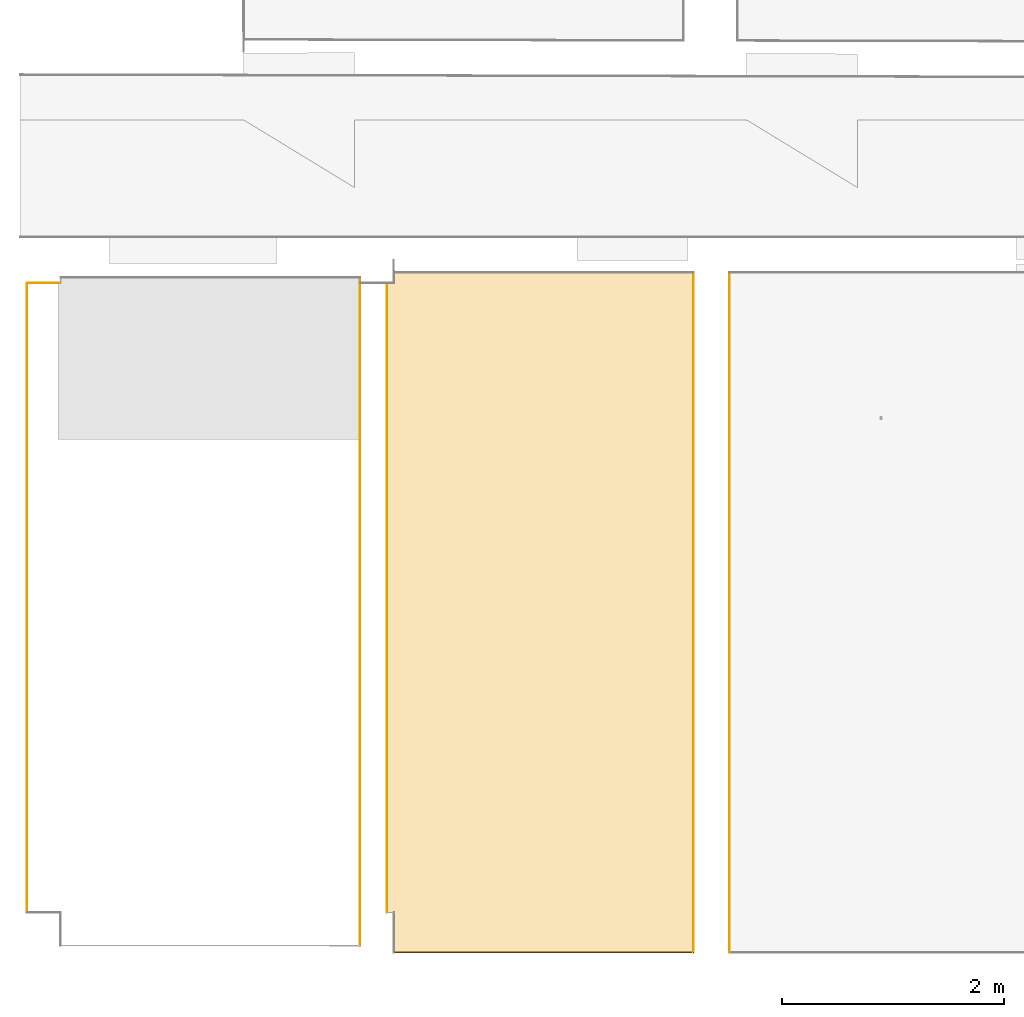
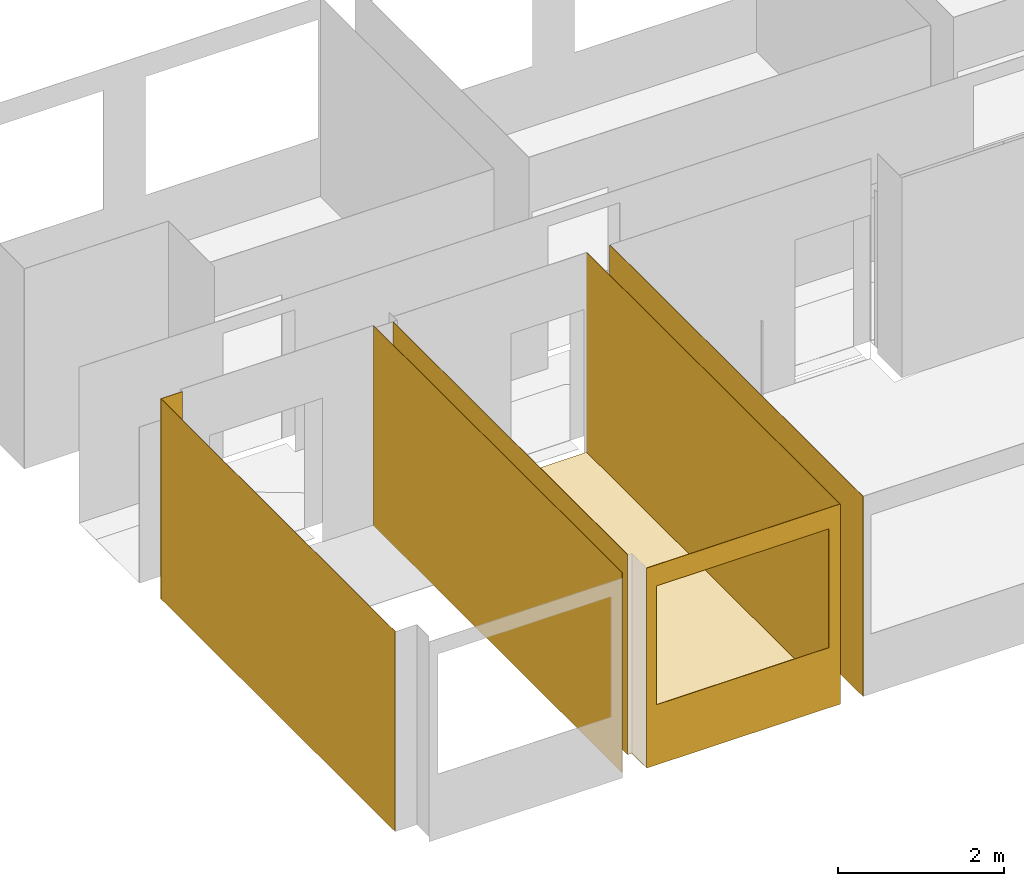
# One storey, part 2 of 16: 8 coverings, 1 opening.
"""IFC2X3 building model written with IfcOpenShell, lengths in millimetres."""

from ifc_helpers import new_model, entity, si_unit, converted_unit, derived_unit, money_unit, direction, frame, origin_with_axes, origin_2d_with_axis, place, context, subcontext, project, spatial, polyline, rectangle, outline, extrude, material, type_object, element, save


model = new_model("IFC2X3")

# Units and contexts
model_context = context("Model", 3, precision=0.01, world=origin_with_axes(), true_north=direction((0.0, 1.0)))
body_context = subcontext(model_context, "Body", "Model", "MODEL_VIEW")
ifc_project = project(units=[si_unit("LENGTHUNIT", "METRE", prefix="MILLI"), si_unit("AREAUNIT", "SQUARE_METRE"), si_unit("VOLUMEUNIT", "CUBIC_METRE"), converted_unit("PLANEANGLEUNIT", "DEGREE", entity("IfcPlaneAngleMeasure", 0.0174532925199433), si_unit("PLANEANGLEUNIT", "RADIAN"), dimensions=[0, 0, 0, 0, 0, 0, 0]), money_unit("EUR"), converted_unit("TIMEUNIT", "Year", entity("IfcTimeMeasure", 31556926.0), si_unit("TIMEUNIT", "SECOND"), dimensions=[0, 0, 1, 0, 0, 0, 0]), si_unit("MASSUNIT", "GRAM", prefix="KILO"), si_unit("THERMODYNAMICTEMPERATUREUNIT", "DEGREE_CELSIUS"), si_unit("LUMINOUSINTENSITYUNIT", "LUMEN"), si_unit("ENERGYUNIT", "JOULE", prefix="MEGA"), derived_unit("THERMALCONDUCTANCEUNIT", [(si_unit("POWERUNIT", "WATT"), 1), (si_unit("LENGTHUNIT", "METRE"), -1), (si_unit("THERMODYNAMICTEMPERATUREUNIT", "KELVIN"), -1)]), derived_unit("SPECIFICHEATCAPACITYUNIT", [(si_unit("ENERGYUNIT", "JOULE"), 1), (si_unit("MASSUNIT", "GRAM", prefix="KILO"), -1), (si_unit("THERMODYNAMICTEMPERATUREUNIT", "KELVIN"), -1)]), derived_unit("MASSDENSITYUNIT", [(si_unit("MASSUNIT", "GRAM", prefix="KILO"), 1), (si_unit("VOLUMEUNIT", "CUBIC_METRE"), -1)])], contexts=[model_context])

# Site, building, storey
site_placement = place(None, origin_with_axes())
site = spatial("IfcSite", under=ifc_project, at=site_placement, Name="Paldiski mnt 245/1, Tallinn, Harjumaa", CompositionType="COMPLEX")
building_placement = place(site_placement, origin_with_axes())
building = spatial("IfcBuilding", under=site, at=building_placement, Name="RKAS Hoone üldnimetus (kasutust iseloomustav) -> IFC Project Manager -> SOLIBRI", CompositionType="ELEMENT")
storey_placement = place(building_placement, frame((0.0, 0.0, 3300.0), z_axis=(0.0, 0.0, 1.0), x_axis=(1.0, 0.0, 0.0)))
storey = spatial("IfcBuildingStorey", under=building, at=storey_placement, Name="Teine korrus", CompositionType="ELEMENT", Elevation=3300.0)

# Covering
ifc_material_1 = material(Name="SA- PM-2 vinüül hex")
covering_type_1 = type_object("IfcCoveringType", Name="SA- PM-2 vinüül hex 3", PredefinedType="FLOORING")
covering_1_placement = place(storey_placement, frame((-41588.00000000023, -12510.0840870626, 0.0), z_axis=(0.0, 0.0, 1.0), x_axis=(1.0, 0.0, 0.0)))
element("IfcCovering", 1, at=covering_1_placement, inside=storey, type_object=covering_type_1, material=ifc_material_1, Name="PM-2", PredefinedType="FLOORING", context=body_context, shape_type="SweptSolid", body=[
    extrude(outline(polyline([(0.0, 0.0), (0.0, 360.0000000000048), (1.49213974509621e-10, 6030.08408706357), (1.4210854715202e-10, 6122.084087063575), (-2701.999995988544, 6122.084087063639), (-2701.999999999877, 6030.084087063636), (-2761.999999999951, 6030.084087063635), (-2762.000000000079, 360.0000000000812), (-2702.000000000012, 360.0000000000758), (-2702.00000000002, 0.0), (0.0, 0.0)])), origin_with_axes(), (0.0, 0.0, 1.0), 3.0),
])

# Covering, opening
ifc_material_2 = material(Name="SA- Värv SM5(valge)")
covering_type_2 = type_object("IfcCoveringType", Name="SA- Värv SM5(valge) 5", PredefinedType="CLADDING")
covering_2_placement = place(storey_placement, frame((-44290.00000000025, -12510.08408706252, 0.0), z_axis=(0.0, 0.0, 1.0), x_axis=(1.0, 0.0, 0.0)))
covering_2 = element("IfcCovering", 2, at=covering_2_placement, inside=storey, type_object=covering_type_2, material=ifc_material_2, Name="SM5", PredefinedType="CLADDING", context=body_context, shape_type="SweptSolid", body=[
    extrude(outline(polyline([(0.0, 0.0), (2702.00000000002, 0.0), (2702.00000000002, 5.000000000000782), (0.0, 5.000000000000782), (0.0, 0.0)])), origin_with_axes(), (0.0, 0.0, 1.0), 2950.0),
])
opening_placement = place(covering_2_placement, frame((44290.00000000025, 12510.08408706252, -3300.0), z_axis=(0.0, 0.0, 1.0), x_axis=(1.0, 0.0, 0.0)))
element("IfcOpeningElement", 3, at=opening_placement, cuts=covering_2, Name="AVA", ObjectType="OPENING", context=body_context, shape_type="SweptSolid", body=[
    extrude(rectangle(XDim=2408.880911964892, YDim=1752.999180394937, at=origin_2d_with_axis()), frame((-42952.32756183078, -12515.08408706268, 5063.500409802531), z_axis=(0.0, -1.0, 0.0), x_axis=(1.0, 0.0, 0.0)), (0.0, 0.0, -1.0), 15.00000000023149),
])

# Coverings
covering_3_placement = place(storey_placement, frame((-44590.0000000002, -6429.999999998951, 0.0), z_axis=(0.0, 0.0, 1.0), x_axis=(1.16000475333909e-06, -0.9999999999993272, 0.0)))
element("IfcCovering", 4, at=covering_3_placement, inside=storey, type_object=covering_type_2, material=ifc_material_2, Name="SM5", PredefinedType="CLADDING", context=body_context, shape_type="SweptSolid", body=[
    extrude(outline(polyline([(4.999994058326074, -4.999999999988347), (6013.469736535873, -4.999999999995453), (6018.473234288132, 0.0), (0.0, 0.0), (4.999994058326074, -4.999999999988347)])), origin_with_axes(), (0.0, 0.0, 1.0), 2950.0),
])
covering_4_placement = place(storey_placement, frame((-47590.00000000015, -6479.999999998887, 0.0), z_axis=(0.0, 0.0, 1.0), x_axis=(1.0, 0.0, 0.0)))
element("IfcCovering", 5, at=covering_4_placement, inside=storey, type_object=covering_type_2, material=ifc_material_2, Name="SM5", PredefinedType="CLADDING", context=body_context, shape_type="SweptSolid", body=[
    extrude(outline(polyline([(0.0, -4.999999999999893), (305.0000030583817, -4.999999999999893), (299.9999999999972, 0.0), (0.0, 0.0), (0.0, -4.999999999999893)])), origin_with_axes(), (0.0, 0.0, 1.0), 2950.0),
])
covering_5_placement = place(storey_placement, frame((-47590.00000000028, -12150.08408706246, 0.0), z_axis=(0.0, 0.0, 1.0), x_axis=(0.0, 1.0, 0.0)))
element("IfcCovering", 6, at=covering_5_placement, inside=storey, type_object=covering_type_2, material=ifc_material_2, Name="SM5", PredefinedType="CLADDING", context=body_context, shape_type="SweptSolid", body=[
    extrude(outline(polyline([(0.0, -5.000000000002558), (5670.084087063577, -5.000000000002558), (5670.084087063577, 0.0), (0.0, 0.0), (0.0, -5.000000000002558)])), origin_with_axes(), (0.0, 0.0, 1.0), 2950.0),
])
covering_6_placement = place(storey_placement, frame((-44350.00000000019, -6479.999999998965, 0.0), z_axis=(0.0, 0.0, 1.0), x_axis=(0.0, -1.0, 0.0)))
element("IfcCovering", 7, at=covering_6_placement, inside=storey, type_object=covering_type_2, material=ifc_material_2, Name="SM5", PredefinedType="CLADDING", context=body_context, shape_type="SweptSolid", body=[
    extrude(outline(polyline([(4.999999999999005, 0.0), (5670.084087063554, 0.0), (5665.084087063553, 5.000000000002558), (4.999999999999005, 5.000000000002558), (4.999999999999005, 0.0)])), origin_with_axes(), (0.0, 0.0, 1.0), 2950.0),
])
covering_7_placement = place(storey_placement, frame((-41272.00000000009, -6387.999999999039, 0.0), z_axis=(0.0, 0.0, 1.0), x_axis=(0.0, -1.0, 0.0)))
element("IfcCovering", 8, at=covering_7_placement, inside=storey, type_object=covering_type_2, material=ifc_material_2, Name="SM5", PredefinedType="CLADDING", context=body_context, shape_type="SweptSolid", body=[
    extrude(outline(polyline([(0.0, 0.0), (6122.084301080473, 0.0), (6122.084301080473, 5.000000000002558), (0.0, 5.000000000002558), (0.0, 0.0)])), origin_with_axes(), (0.0, 0.0, 1.0), 2950.0),
])
covering_8_placement = place(storey_placement, frame((-41588.00000000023, -12510.0840870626, 0.0), z_axis=(0.0, 0.0, 1.0), x_axis=(0.0, 1.0, 0.0)))
element("IfcCovering", 9, at=covering_8_placement, inside=storey, type_object=covering_type_2, material=ifc_material_2, Name="SM5", PredefinedType="CLADDING", context=body_context, shape_type="SweptSolid", body=[
    extrude(outline(polyline([(-0.0002140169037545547, 0.0), (6122.084087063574, 0.0), (6122.084087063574, 5.000000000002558), (-0.0002140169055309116, 5.000000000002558), (-0.0002140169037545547, 0.0)])), origin_with_axes(), (0.0, 0.0, 1.0), 2950.0),
])

save(model, "model.ifc")
